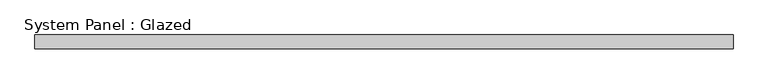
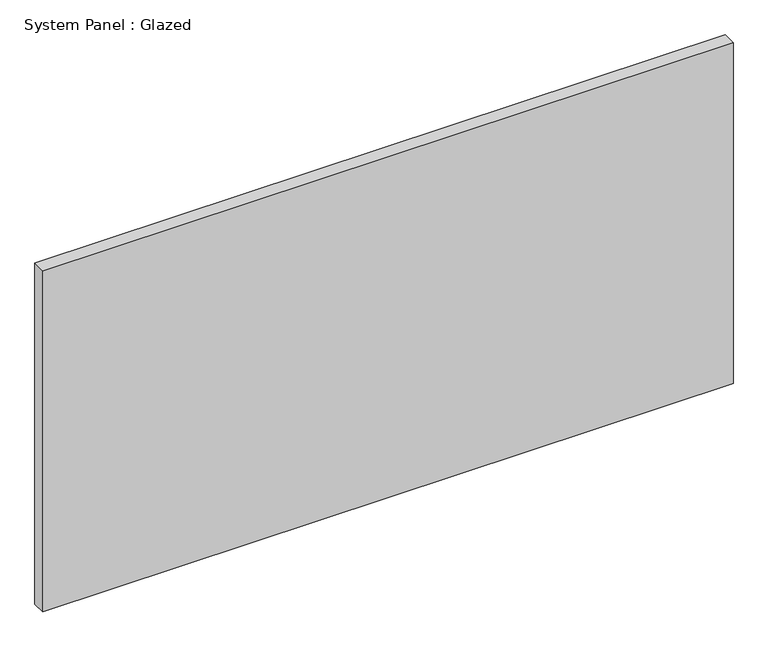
"""IFC4 building model written with IfcOpenShell, lengths in millimetres: plate geometry, System Panel : Glazed."""

import ifcopenshell
import ifcopenshell.guid

model = None  # the IFC model being written
_history = None  # IfcOwnerHistory: only IFC2X3 demands one
_inside = {}  # id of a spatial element -> (the spatial element, [elements in it])
_under = {}  # id of a project, library or spatial element -> (it, [spatial elements below it])
_declared = {}  # id of a project -> (the project, [libraries it declares])
_typed = {}  # id of a type object -> (the type object, [elements of that type])
_made_of = {}  # id of a material, layer set ... -> (it, [elements and type objects made of it])


def new_model(schema):
    """Start an empty IFC model of exactly this schema.

    Asked for "IFC4X3", IfcOpenShell would pick the latest addendum, in which some entities
    have other attributes; the version numbers below select the first issue.
    IFC2X3 requires an IfcOwnerHistory on every rooted entity: one is made here for all.
    """
    global model, _history
    if schema == "IFC4X3":
        model = ifcopenshell.file(schema_version=(4, 3, 0, 0))
    else:
        model = ifcopenshell.file(schema=schema)
    _inside.clear()
    _under.clear()
    _declared.clear()
    _typed.clear()
    _made_of.clear()
    _history = None
    if model.schema == "IFC2X3":
        org = make("IfcOrganization", Name="unknown")
        user = make(
            "IfcPersonAndOrganization",
            ThePerson=make("IfcPerson", FamilyName="unknown"),
            TheOrganization=org,
        )
        app = make(
            "IfcApplication",
            ApplicationDeveloper=org,
            Version="unknown",
            ApplicationFullName="unknown",
            ApplicationIdentifier="unknown",
        )
        _history = make(
            "IfcOwnerHistory",
            OwningUser=user,
            OwningApplication=app,
            ChangeAction="ADDED",
            CreationDate=0,
        )
    return model


def make(cls, **values):
    """One entity of the class cls with the attributes given. An attribute that is None is left unset."""
    return model.create_entity(
        cls, **{name: value for name, value in values.items() if value is not None}
    )


def rooted(cls, **values):
    """An entity with a GlobalId (a new one), such as an element, a storey or a relation."""
    return make(cls, GlobalId=ifcopenshell.guid.new(), OwnerHistory=_history, **values)


def si_unit(unit_type, name, prefix=None):
    """IfcSIUnit, for example si_unit("LENGTHUNIT", "METRE", prefix="MILLI")."""
    return make("IfcSIUnit", UnitType=unit_type, Prefix=prefix, Name=name)


def assignment(units):
    """IfcUnitAssignment: the units of a project."""
    return None if units is None else make("IfcUnitAssignment", Units=units)


def point(xyz):
    """IfcCartesianPoint."""
    return None if xyz is None else make("IfcCartesianPoint", Coordinates=xyz)


def direction(xyz):
    """IfcDirection."""
    return None if xyz is None else make("IfcDirection", DirectionRatios=xyz)


def frame(location, z_axis=None, x_axis=None):
    """IfcAxis2Placement3D, a coordinate frame: its origin and axes. An axis left out is left unset."""
    return make(
        "IfcAxis2Placement3D",
        Location=point(location),
        Axis=direction(z_axis),
        RefDirection=direction(x_axis),
    )


def origin():
    """The frame at (0, 0, 0) with its axes left unset."""
    return frame((0.0, 0.0, 0.0))


def origin_with_axes():
    """The frame at (0, 0, 0) with the z axis (0, 0, 1) and the x axis (1, 0, 0) written out."""
    return frame((0.0, 0.0, 0.0), z_axis=(0.0, 0.0, 1.0), x_axis=(1.0, 0.0, 0.0))


def place(relative_to, where):
    """IfcLocalPlacement: puts the frame where relative to a parent placement (None: the world)."""
    return make(
        "IfcLocalPlacement", PlacementRelTo=relative_to, RelativePlacement=where
    )


def context(
    kind, dimensions, precision=None, world=None, true_north=None, identifier=None
):
    """IfcGeometricRepresentationContext, for example the 3D "Model" context."""
    return make(
        "IfcGeometricRepresentationContext",
        ContextIdentifier=identifier,
        ContextType=kind,
        CoordinateSpaceDimension=dimensions,
        Precision=precision,
        WorldCoordinateSystem=world,
        TrueNorth=true_north,
    )


def project(units=None, contexts=None):
    """IfcProject with its units and contexts."""
    return rooted(
        "IfcProject",
        Name="project",
        RepresentationContexts=contexts,
        UnitsInContext=assignment(units),
    )


def spatial(cls, under=None, at=None, **own):
    """A site, building, storey or space (cls), placed at a placement, below another one or the project."""
    s = rooted(cls, ObjectPlacement=at, **own)
    if under is not None:
        _under.setdefault(under.id(), (under, []))[1].append(s)
    return s


def polyline(points):
    """IfcPolyline through the points."""
    return make("IfcPolyline", Points=[point(p) for p in points])


def outline(outer, holes=None, kind="AREA"):
    """IfcArbitraryClosedProfileDef: a profile drawn as a closed curve; with holes, ...WithVoids."""
    if holes is None:
        return make("IfcArbitraryClosedProfileDef", ProfileType=kind, OuterCurve=outer)
    return make(
        "IfcArbitraryProfileDefWithVoids",
        ProfileType=kind,
        OuterCurve=outer,
        InnerCurves=holes,
    )


def extrude(swept, where, along, depth):
    """IfcExtrudedAreaSolid: the profile swept, set in the frame where, extruded along a direction by depth."""
    return make(
        "IfcExtrudedAreaSolid",
        SweptArea=swept,
        Position=where,
        ExtrudedDirection=direction(along),
        Depth=depth,
    )


def shape(context_of_items, identifier, shape_type, items):
    """IfcShapeRepresentation: the items that make up one representation, for example the "Body"."""
    return make(
        "IfcShapeRepresentation",
        ContextOfItems=context_of_items,
        RepresentationIdentifier=identifier,
        RepresentationType=shape_type,
        Items=items,
    )


def source(mapping_origin, context_of_items, identifier, shape_type, items):
    """IfcRepresentationMap: a shape defined once, which mapped items show again and again."""
    return make(
        "IfcRepresentationMap",
        MappingOrigin=mapping_origin,
        MappedRepresentation=shape(context_of_items, identifier, shape_type, items),
    )


def transform(
    local_origin,
    x_axis=None,
    y_axis=None,
    z_axis=None,
    scale=None,
    scale2=None,
    scale3=None,
    uniform=True,
):
    """IfcCartesianTransformationOperator3D, or its non-uniform kind. x_axis, y_axis, z_axis: its Axis1, 2, 3."""
    if uniform:
        return make(
            "IfcCartesianTransformationOperator3D",
            Axis1=direction(x_axis),
            Axis2=direction(y_axis),
            LocalOrigin=point(local_origin),
            Scale=scale,
            Axis3=direction(z_axis),
        )
    return make(
        "IfcCartesianTransformationOperator3DnonUniform",
        Axis1=direction(x_axis),
        Axis2=direction(y_axis),
        LocalOrigin=point(local_origin),
        Scale=scale,
        Axis3=direction(z_axis),
        Scale2=scale2,
        Scale3=scale3,
    )


def mapped(mapping_source, mapping_target):
    """IfcMappedItem: shows the shape of a source again, moved by a transform."""
    return make(
        "IfcMappedItem", MappingSource=mapping_source, MappingTarget=mapping_target
    )


def made_of(thing, what):
    """Note that an element or type object is made of a material, layer set ...; save() writes the relation."""
    if what is not None:
        _made_of.setdefault(what.id(), (what, []))[1].append(thing)
    return thing


def element(
    cls,
    number,
    at=None,
    inside=None,
    cuts=None,
    type_object=None,
    material=None,
    context=None,
    identifier="Body",
    shape_type=None,
    held_by="IfcProductDefinitionShape",
    body=None,
    shapes=None,
    **own,
):
    """One element of the class cls, such as IfcWall. Its Tag is "e" and its number.

    at: its placement. inside: the storey or other place that contains it. cuts: it is an
    opening in that element (IfcRelVoidsElement). A single representation is given by context,
    identifier, shape_type and body (its items); several are given by shapes. held_by: the class
    of the entity that holds the representations. save() writes the other relations.
    """
    e = rooted(cls, Tag="e%d" % number, ObjectPlacement=at, **own)
    if body is not None:
        shapes = [shape(context, identifier, shape_type, body)]
    if shapes is not None:
        e.Representation = make(held_by, Representations=shapes)
    if inside is not None:
        _inside.setdefault(inside.id(), (inside, []))[1].append(e)
    if cuts is not None:
        rooted(
            "IfcRelVoidsElement", RelatingBuildingElement=cuts, RelatedOpeningElement=e
        )
    if type_object is not None:
        _typed.setdefault(type_object.id(), (type_object, []))[1].append(e)
    return made_of(e, material)


def aggregate(whole, parts):
    """IfcRelAggregates: a whole, such as a stair, and the parts it consists of."""
    return rooted("IfcRelAggregates", RelatingObject=whole, RelatedObjects=parts)


def save(model, path):
    """Write the relations noted so far, then the file.

    IfcRelAggregates (storeys below a building ...), IfcRelContainedInSpatialStructure (elements
    in a storey), IfcRelDefinesByType, IfcRelAssociatesMaterial and IfcRelDeclares: one each for
    every whole, place, type object, material and project.
    """
    for whole, parts in _under.values():
        aggregate(whole, parts)
    for where, things in _inside.values():
        rooted(
            "IfcRelContainedInSpatialStructure",
            RelatedElements=things,
            RelatingStructure=where,
        )
    for kind, things in _typed.values():
        rooted("IfcRelDefinesByType", RelatedObjects=things, RelatingType=kind)
    for what, things in _made_of.values():
        rooted("IfcRelAssociatesMaterial", RelatedObjects=things, RelatingMaterial=what)
    for by, libraries in _declared.values():
        rooted("IfcRelDeclares", RelatingContext=by, RelatedDefinitions=libraries)
    model.write(path)


def system_panel_glazed_02edb99e(model_context):
    return source(origin(), model_context, "Body", "SweptSolid", [
        extrude(outline(polyline([(638.175, 19.05), (-638.175, 19.05), (-638.175, 44.45), (638.175, 44.45), (638.175, 19.05)])), origin_with_axes(), (0.0, 0.0, 1.0), 666.75),
    ])


if __name__ == "__main__":
    model = new_model("IFC4")
    model_context = context("Model", 3, world=origin())
    ifc_project = project(units=[si_unit("LENGTHUNIT", "METRE", prefix="MILLI")], contexts=[model_context])
    site = spatial("IfcSite", under=ifc_project)
    building = spatial("IfcBuilding", under=site)
    placement = place(None, origin())
    system_panel_glazed_shape = system_panel_glazed_02edb99e(model_context)
    element("IfcPlate", 1, ObjectType="System Panel : Glazed", at=placement, inside=building, context=model_context, shape_type="MappedRepresentation", body=[
        mapped(system_panel_glazed_shape, transform((0.0, 0.0, 0.0), x_axis=(1.0, 0.0, 0.0), y_axis=(0.0, 1.0, 0.0), z_axis=(0.0, 0.0, 1.0))),
    ])
    save(model, "model.ifc")
